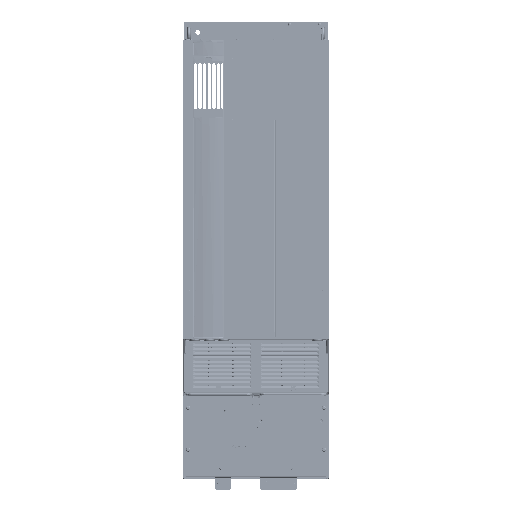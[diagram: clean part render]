
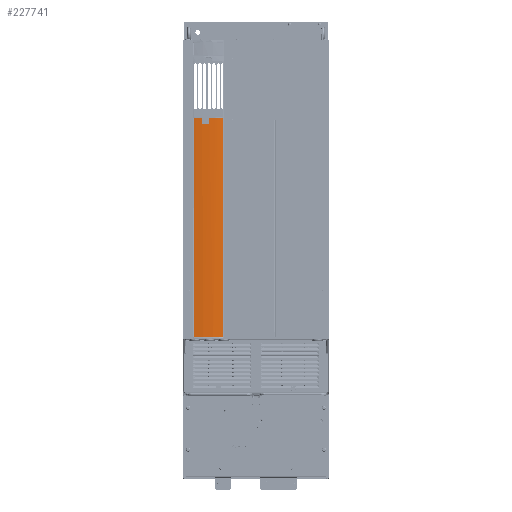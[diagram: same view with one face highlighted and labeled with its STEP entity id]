
A CAD part, top view. The second image highlights one B-rep face of the part: STEP entity #227741.
In plain terms, the highlighted cylindrical face has radius 279.6 mm (diameter 559.2 mm), a partial arc.
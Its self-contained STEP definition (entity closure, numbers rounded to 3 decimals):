
#219306=CARTESIAN_POINT('',(-98.893,9.181,-234.829));
#219307=CARTESIAN_POINT('',(-100.303,9.258,-234.829));
#219308=CARTESIAN_POINT('',(-103.124,9.391,
-234.829));
#219309=CARTESIAN_POINT('',(-107.358,9.527,
-234.829));
#219310=CARTESIAN_POINT('',(-110.182,9.575,
-234.828));
#219311=CARTESIAN_POINT('',(-111.594,9.588,-234.829));
#219316=CARTESIAN_POINT('',(-114.2,-270.,-234.829));
#219317=DIRECTION('',(0.,0.,1.));
#219318=DIRECTION('',(0.126,0.992,0.));
#219319=AXIS2_PLACEMENT_3D('',#219316,#219317,#219318);
#219324=CARTESIAN_POINT('',(-79.028,7.379,-234.829));
#219325=CARTESIAN_POINT('',(-79.01,7.377,
-234.829));
#219326=CARTESIAN_POINT('',(-78.979,7.373,
-234.82));
#219327=CARTESIAN_POINT('',(-78.94,7.368,
-234.785));
#219328=CARTESIAN_POINT('',(-78.928,7.366,
-234.749));
#219329=CARTESIAN_POINT('',(-78.928,7.366,-234.729));
#219334=DIRECTION('',(0.,0.,1.));
#219335=VECTOR('',#219334,524.764);
#219336=CARTESIAN_POINT('',(-78.928,7.366,-234.729));
#219337=LINE('',#219336,#219335);
#219341=CARTESIAN_POINT('',(-78.928,7.366,
290.035));
#219342=CARTESIAN_POINT('',(-78.928,7.366,
290.053));
#219343=CARTESIAN_POINT('',(-78.936,7.367,
290.084));
#219344=CARTESIAN_POINT('',(-78.972,7.372,
290.123));
#219345=CARTESIAN_POINT('',(-79.007,7.376,
290.135));
#219346=CARTESIAN_POINT('',(-79.028,7.379,
290.135));
#219351=CARTESIAN_POINT('',(-114.2,-270.,290.135));
#219352=DIRECTION('',(0.,0.,1.));
#219353=DIRECTION('',(0.126,0.992,0.));
#219354=AXIS2_PLACEMENT_3D('',#219351,#219352,#219353);
#219359=CARTESIAN_POINT('',(-149.372,7.379,
290.135));
#219360=CARTESIAN_POINT('',(-149.39,7.377,
290.135));
#219361=CARTESIAN_POINT('',(-149.421,7.373,
290.128));
#219362=CARTESIAN_POINT('',(-149.463,7.367,
290.087));
#219363=CARTESIAN_POINT('',(-149.472,7.366,
290.054));
#219364=CARTESIAN_POINT('',(-149.472,7.366,
290.035));
#219369=DIRECTION('',(0.,0.,-1.));
#219370=VECTOR('',#219369,524.764);
#219371=CARTESIAN_POINT('',(-149.472,7.366,
290.035));
#219372=LINE('',#219371,#219370);
#219376=CARTESIAN_POINT('',(-149.472,7.366,-234.729));
#219377=CARTESIAN_POINT('',(-149.472,7.366,
-234.746));
#219378=CARTESIAN_POINT('',(-149.465,7.367,
-234.777));
#219379=CARTESIAN_POINT('',(-149.424,7.372,
-234.82));
#219380=CARTESIAN_POINT('',(-149.391,7.377,
-234.829));
#219381=CARTESIAN_POINT('',(-149.372,7.379,-234.829));
#219386=CARTESIAN_POINT('',(-114.2,-270.,-234.829));
#219387=DIRECTION('',(0.,0.,1.));
#219388=DIRECTION('',(-0.055,0.999,0.));
#219389=AXIS2_PLACEMENT_3D('',#219386,#219387,#219388);
#219394=DIRECTION('',(0.,0.,1.));
#219395=VECTOR('',#219394,13.433);
#219396=CARTESIAN_POINT('',(-129.507,9.181,-234.829));
#219397=LINE('',#219396,#219395);
#219401=CARTESIAN_POINT('',(-111.594,9.588,
-221.402));
#219402=CARTESIAN_POINT('',(-117.569,9.644,
-221.403));
#219403=CARTESIAN_POINT('',(-123.54,9.508,
-221.401));
#219404=CARTESIAN_POINT('',(-129.507,9.181,
-221.395));
#219409=DIRECTION('',(0.,0.,1.));
#219410=VECTOR('',#219409,13.426);
#219411=CARTESIAN_POINT('',(-111.594,9.588,-234.829));
#219412=LINE('',#219411,#219410);
#221333=VERTEX_POINT('',#219324);
#221334=VERTEX_POINT('',#219329);
#221335=CARTESIAN_POINT('',(-78.928,7.366,
290.035));
#221336=VERTEX_POINT('',#221335);
#221337=VERTEX_POINT('',#219346);
#221338=CARTESIAN_POINT('',(-149.372,7.379,
290.135));
#221339=VERTEX_POINT('',#221338);
#221340=VERTEX_POINT('',#219364);
#221341=CARTESIAN_POINT('',(-149.472,7.366,-234.729));
#221342=VERTEX_POINT('',#221341);
#221343=VERTEX_POINT('',#219381);
#221370=CARTESIAN_POINT('',(-98.893,9.181,-234.829));
#221371=VERTEX_POINT('',#221370);
#221374=CARTESIAN_POINT('',(-111.594,9.588,
-221.402));
#221376=VERTEX_POINT('',#221374);
#221378=CARTESIAN_POINT('',(-111.594,9.588,-234.829));
#221380=VERTEX_POINT('',#221378);
#221382=CARTESIAN_POINT('',(-129.507,9.181,-234.829));
#221383=VERTEX_POINT('',#221382);
#221388=VERTEX_POINT('',#219404);
#227713=CARTESIAN_POINT('',(-114.2,-270.,-235.209));
#227714=DIRECTION('',(0.,0.,1.));
#227715=DIRECTION('',(1.,0.,0.));
#227716=AXIS2_PLACEMENT_3D('',#227713,#227714,#227715);
#227717=CYLINDRICAL_SURFACE('',#227716,279.6);
#227718=ORIENTED_EDGE('',*,*,#223396,.F.);
#227720=ORIENTED_EDGE('',*,*,#227719,.F.);
#227722=ORIENTED_EDGE('',*,*,#227721,.T.);
#227724=ORIENTED_EDGE('',*,*,#227723,.T.);
#227726=ORIENTED_EDGE('',*,*,#227725,.T.);
#227728=ORIENTED_EDGE('',*,*,#227727,.T.);
#227730=ORIENTED_EDGE('',*,*,#227729,.T.);
#227732=ORIENTED_EDGE('',*,*,#227731,.T.);
#227734=ORIENTED_EDGE('',*,*,#227733,.T.);
#227735=ORIENTED_EDGE('',*,*,#227706,.F.);
#227736=ORIENTED_EDGE('',*,*,#223345,.T.);
#227737=ORIENTED_EDGE('',*,*,#223364,.F.);
#227738=ORIENTED_EDGE('',*,*,#223376,.F.);
#227739=EDGE_LOOP('',(#227718,#227720,#227722,#227724,#227726,#227728,#227730,
#227732,#227734,#227735,#227736,#227737,#227738));
#227740=FACE_OUTER_BOUND('',#227739,.F.);
#227741=ADVANCED_FACE('',(#227740),#227717,.T.);
#219312=B_SPLINE_CURVE_WITH_KNOTS('',3,(#219306,#219307,#219308,#219309,#219310,
#219311),.UNSPECIFIED.,.F.,.F.,(4,1,1,4),(0.,0.333,
0.667,1.),.UNSPECIFIED.);
#219320=CIRCLE('',#219319,279.6);
#219330=B_SPLINE_CURVE_WITH_KNOTS('',3,(#219324,#219325,#219326,#219327,#219328,
#219329),.UNSPECIFIED.,.F.,.F.,(4,1,1,4),(0.,0.333,
0.667,1.),.UNSPECIFIED.);
#219347=B_SPLINE_CURVE_WITH_KNOTS('',3,(#219341,#219342,#219343,#219344,#219345,
#219346),.UNSPECIFIED.,.F.,.F.,(4,1,1,4),(0.,0.333,
0.667,1.),.UNSPECIFIED.);
#219355=CIRCLE('',#219354,279.6);
#219365=B_SPLINE_CURVE_WITH_KNOTS('',3,(#219359,#219360,#219361,#219362,#219363,
#219364),.UNSPECIFIED.,.F.,.F.,(4,1,1,4),(0.,0.333,
0.667,1.),.UNSPECIFIED.);
#219382=B_SPLINE_CURVE_WITH_KNOTS('',3,(#219376,#219377,#219378,#219379,#219380,
#219381),.UNSPECIFIED.,.F.,.F.,(4,1,1,4),(0.,0.333,
0.667,1.),.UNSPECIFIED.);
#219390=CIRCLE('',#219389,279.6);
#219405=B_SPLINE_CURVE_WITH_KNOTS('',3,(#219401,#219402,#219403,#219404),
.UNSPECIFIED.,.F.,.F.,(4,4),(0.,1.),.UNSPECIFIED.);
#223345=EDGE_CURVE('',#221383,#221388,#219397,.T.);
#223364=EDGE_CURVE('',#221376,#221388,#219405,.T.);
#223376=EDGE_CURVE('',#221380,#221376,#219412,.T.);
#223396=EDGE_CURVE('',#221371,#221380,#219312,.T.);
#227706=EDGE_CURVE('',#221383,#221343,#219390,.T.);
#227719=EDGE_CURVE('',#221333,#221371,#219320,.T.);
#227721=EDGE_CURVE('',#221333,#221334,#219330,.T.);
#227723=EDGE_CURVE('',#221334,#221336,#219337,.T.);
#227725=EDGE_CURVE('',#221336,#221337,#219347,.T.);
#227727=EDGE_CURVE('',#221337,#221339,#219355,.T.);
#227729=EDGE_CURVE('',#221339,#221340,#219365,.T.);
#227731=EDGE_CURVE('',#221340,#221342,#219372,.T.);
#227733=EDGE_CURVE('',#221342,#221343,#219382,.T.);
